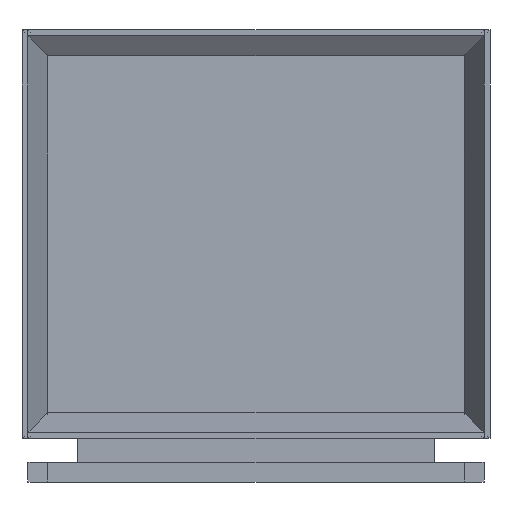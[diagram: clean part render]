
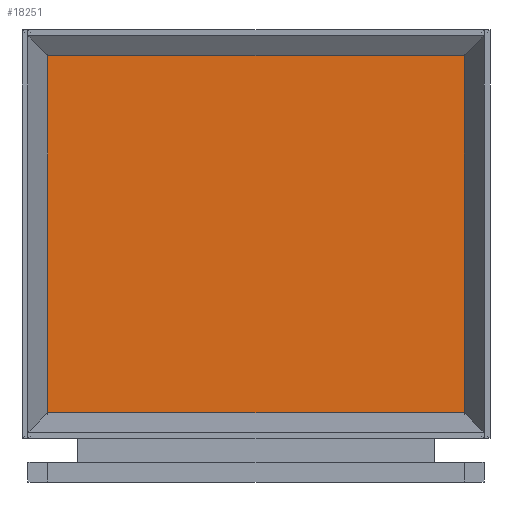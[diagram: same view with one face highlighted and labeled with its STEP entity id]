
A CAD part, left-side view. The second image highlights one B-rep face of the part: STEP entity #18251.
In plain terms, the highlighted planar face has unit normal (-1, 0, 0).
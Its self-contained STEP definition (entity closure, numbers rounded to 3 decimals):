
#18251 = ADVANCED_FACE('',(#18252),#18266,.F.);
#18252 = FACE_BOUND('',#18253,.F.);
#18253 = EDGE_LOOP('',(#18254,#18289,#18317,#18345));
#18254 = ORIENTED_EDGE('',*,*,#18255,.F.);
#18255 = EDGE_CURVE('',#18256,#18258,#18260,.T.);
#18256 = VERTEX_POINT('',#18257);
#18257 = CARTESIAN_POINT('',(80.,-210.,-180.));
#18258 = VERTEX_POINT('',#18259);
#18259 = CARTESIAN_POINT('',(80.,-210.,180.));
#18260 = SURFACE_CURVE('',#18261,(#18265,#18277),.PCURVE_S1.);
#18261 = LINE('',#18262,#18263);
#18262 = CARTESIAN_POINT('',(80.,-210.,-180.));
#18263 = VECTOR('',#18264,1.);
#18264 = DIRECTION('',(0.,0.,1.));
#18265 = PCURVE('',#18266,#18271);
#18266 = PLANE('',#18267);
#18267 = AXIS2_PLACEMENT_3D('',#18268,#18269,#18270);
#18268 = CARTESIAN_POINT('',(80.,-210.,-180.));
#18269 = DIRECTION('',(1.,0.,0.));
#18270 = DIRECTION('',(0.,0.,1.));
#18271 = DEFINITIONAL_REPRESENTATION('',(#18272),#18276);
#18272 = LINE('',#18273,#18274);
#18273 = CARTESIAN_POINT('',(0.,0.));
#18274 = VECTOR('',#18275,1.);
#18275 = DIRECTION('',(1.,0.));
#18276 = ( GEOMETRIC_REPRESENTATION_CONTEXT(2) 
PARAMETRIC_REPRESENTATION_CONTEXT() REPRESENTATION_CONTEXT('2D SPACE',''
  ) );
#18277 = PCURVE('',#18278,#18283);
#18278 = PLANE('',#18279);
#18279 = AXIS2_PLACEMENT_3D('',#18280,#18281,#18282);
#18280 = CARTESIAN_POINT('',(80.,-210.,-180.));
#18281 = DIRECTION('',(0.,1.,0.));
#18282 = DIRECTION('',(0.,0.,1.));
#18283 = DEFINITIONAL_REPRESENTATION('',(#18284),#18288);
#18284 = LINE('',#18285,#18286);
#18285 = CARTESIAN_POINT('',(0.,0.));
#18286 = VECTOR('',#18287,1.);
#18287 = DIRECTION('',(1.,0.));
#18288 = ( GEOMETRIC_REPRESENTATION_CONTEXT(2) 
PARAMETRIC_REPRESENTATION_CONTEXT() REPRESENTATION_CONTEXT('2D SPACE',''
  ) );
#18289 = ORIENTED_EDGE('',*,*,#18290,.T.);
#18290 = EDGE_CURVE('',#18256,#18291,#18293,.T.);
#18291 = VERTEX_POINT('',#18292);
#18292 = CARTESIAN_POINT('',(80.,210.,-180.));
#18293 = SURFACE_CURVE('',#18294,(#18298,#18305),.PCURVE_S1.);
#18294 = LINE('',#18295,#18296);
#18295 = CARTESIAN_POINT('',(80.,-210.,-180.));
#18296 = VECTOR('',#18297,1.);
#18297 = DIRECTION('',(0.,1.,0.));
#18298 = PCURVE('',#18266,#18299);
#18299 = DEFINITIONAL_REPRESENTATION('',(#18300),#18304);
#18300 = LINE('',#18301,#18302);
#18301 = CARTESIAN_POINT('',(0.,0.));
#18302 = VECTOR('',#18303,1.);
#18303 = DIRECTION('',(0.,-1.));
#18304 = ( GEOMETRIC_REPRESENTATION_CONTEXT(2) 
PARAMETRIC_REPRESENTATION_CONTEXT() REPRESENTATION_CONTEXT('2D SPACE',''
  ) );
#18305 = PCURVE('',#18306,#18311);
#18306 = PLANE('',#18307);
#18307 = AXIS2_PLACEMENT_3D('',#18308,#18309,#18310);
#18308 = CARTESIAN_POINT('',(80.,-210.,-180.));
#18309 = DIRECTION('',(0.,0.,1.));
#18310 = DIRECTION('',(1.,0.,0.));
#18311 = DEFINITIONAL_REPRESENTATION('',(#18312),#18316);
#18312 = LINE('',#18313,#18314);
#18313 = CARTESIAN_POINT('',(0.,0.));
#18314 = VECTOR('',#18315,1.);
#18315 = DIRECTION('',(0.,1.));
#18316 = ( GEOMETRIC_REPRESENTATION_CONTEXT(2) 
PARAMETRIC_REPRESENTATION_CONTEXT() REPRESENTATION_CONTEXT('2D SPACE',''
  ) );
#18317 = ORIENTED_EDGE('',*,*,#18318,.T.);
#18318 = EDGE_CURVE('',#18291,#18319,#18321,.T.);
#18319 = VERTEX_POINT('',#18320);
#18320 = CARTESIAN_POINT('',(80.,210.,180.));
#18321 = SURFACE_CURVE('',#18322,(#18326,#18333),.PCURVE_S1.);
#18322 = LINE('',#18323,#18324);
#18323 = CARTESIAN_POINT('',(80.,210.,-180.));
#18324 = VECTOR('',#18325,1.);
#18325 = DIRECTION('',(0.,0.,1.));
#18326 = PCURVE('',#18266,#18327);
#18327 = DEFINITIONAL_REPRESENTATION('',(#18328),#18332);
#18328 = LINE('',#18329,#18330);
#18329 = CARTESIAN_POINT('',(0.,-420.));
#18330 = VECTOR('',#18331,1.);
#18331 = DIRECTION('',(1.,0.));
#18332 = ( GEOMETRIC_REPRESENTATION_CONTEXT(2) 
PARAMETRIC_REPRESENTATION_CONTEXT() REPRESENTATION_CONTEXT('2D SPACE',''
  ) );
#18333 = PCURVE('',#18334,#18339);
#18334 = PLANE('',#18335);
#18335 = AXIS2_PLACEMENT_3D('',#18336,#18337,#18338);
#18336 = CARTESIAN_POINT('',(80.,210.,-180.));
#18337 = DIRECTION('',(0.,1.,0.));
#18338 = DIRECTION('',(0.,0.,1.));
#18339 = DEFINITIONAL_REPRESENTATION('',(#18340),#18344);
#18340 = LINE('',#18341,#18342);
#18341 = CARTESIAN_POINT('',(0.,0.));
#18342 = VECTOR('',#18343,1.);
#18343 = DIRECTION('',(1.,0.));
#18344 = ( GEOMETRIC_REPRESENTATION_CONTEXT(2) 
PARAMETRIC_REPRESENTATION_CONTEXT() REPRESENTATION_CONTEXT('2D SPACE',''
  ) );
#18345 = ORIENTED_EDGE('',*,*,#18346,.F.);
#18346 = EDGE_CURVE('',#18258,#18319,#18347,.T.);
#18347 = SURFACE_CURVE('',#18348,(#18352,#18359),.PCURVE_S1.);
#18348 = LINE('',#18349,#18350);
#18349 = CARTESIAN_POINT('',(80.,-210.,180.));
#18350 = VECTOR('',#18351,1.);
#18351 = DIRECTION('',(0.,1.,0.));
#18352 = PCURVE('',#18266,#18353);
#18353 = DEFINITIONAL_REPRESENTATION('',(#18354),#18358);
#18354 = LINE('',#18355,#18356);
#18355 = CARTESIAN_POINT('',(360.,0.));
#18356 = VECTOR('',#18357,1.);
#18357 = DIRECTION('',(0.,-1.));
#18358 = ( GEOMETRIC_REPRESENTATION_CONTEXT(2) 
PARAMETRIC_REPRESENTATION_CONTEXT() REPRESENTATION_CONTEXT('2D SPACE',''
  ) );
#18359 = PCURVE('',#18360,#18365);
#18360 = PLANE('',#18361);
#18361 = AXIS2_PLACEMENT_3D('',#18362,#18363,#18364);
#18362 = CARTESIAN_POINT('',(80.,-210.,180.));
#18363 = DIRECTION('',(0.,0.,1.));
#18364 = DIRECTION('',(1.,0.,0.));
#18365 = DEFINITIONAL_REPRESENTATION('',(#18366),#18370);
#18366 = LINE('',#18367,#18368);
#18367 = CARTESIAN_POINT('',(0.,0.));
#18368 = VECTOR('',#18369,1.);
#18369 = DIRECTION('',(0.,1.));
#18370 = ( GEOMETRIC_REPRESENTATION_CONTEXT(2) 
PARAMETRIC_REPRESENTATION_CONTEXT() REPRESENTATION_CONTEXT('2D SPACE',''
  ) );
